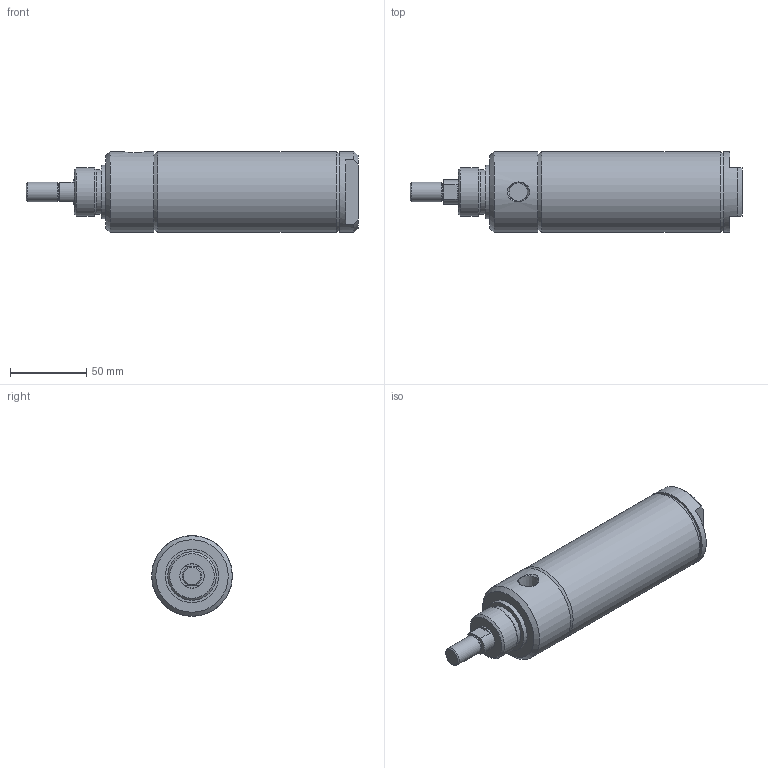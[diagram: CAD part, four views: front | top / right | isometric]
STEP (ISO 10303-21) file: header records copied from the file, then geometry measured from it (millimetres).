
FILE_DESCRIPTION( ( 'STEP AP214' ), '1' );
FILE_NAME( 'p:/temp/worker_456/temp/exporttempdir_5400_466_ahkAo/format_0/2000D01-03A.stp', '2020-05-07T19:02:38', ( 'License CC BY-ND 4.0' ), ( 'CADENAS' ), ' ', 'PARTsolutions', ' ' );
FILE_SCHEMA( ( 'AUTOMOTIVE_DESIGN { 1 0 10303 214 1 1 1 1 }' ) );
Length unit declared in the file: inch
Products named in the file (3): 2000D01-03A; _2000D01-03A-0000A00A0b; _2000D01-03A-0000A00A0r
Assembly tree (2 placements, depth 2):
  2000D01-03A
    _2000D01-03A-0000A00A0b
    _2000D01-03A-0000A00A0r
Bounding box: 217.5 x 52.78 x 52.78 mm (x, y, z)
Volume: 230495.9 mm3; surface area: 78287.9 mm2
Topology: 2 solids, 2 shells, 48 faces, 92 edges, 58 vertices
Faces by surface type: plane 22, cone 13, cylinder 13
Full cylindrical faces by diameter (mm): 11.189 x1, 12.7 x1, 15.875 x3, 29.23 x1, 31.75 x1, 34.925 x1, 50.8 x2, 52.578 x1, 52.781 x2
Entity records: 1605 total; most frequent: CARTESIAN_POINT 271, DIRECTION 206, ORIENTED_EDGE 130, AXIS2_PLACEMENT_3D 95, EDGE_LOOP 84, EDGE_CURVE 65, FACE_OUTER_BOUND 61, VERTEX_POINT 55
